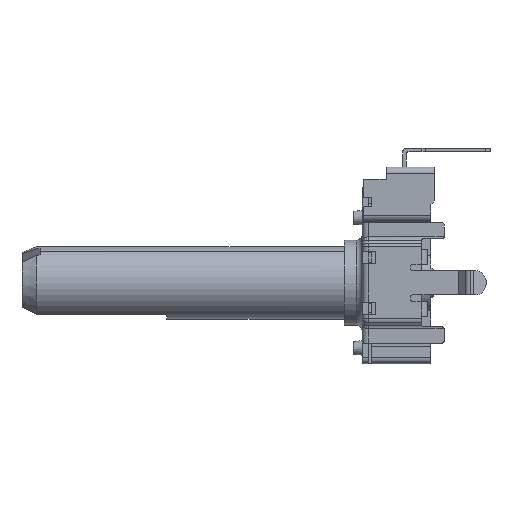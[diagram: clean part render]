
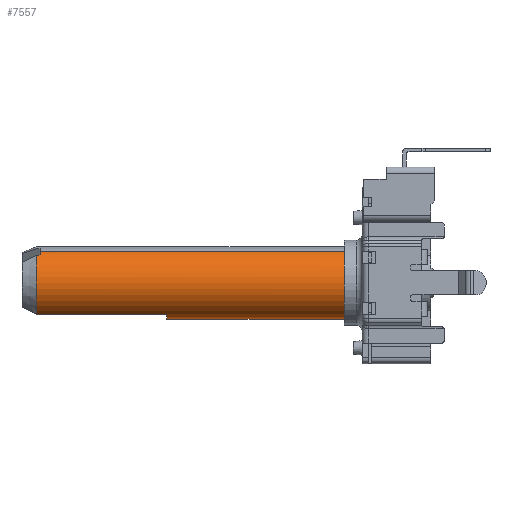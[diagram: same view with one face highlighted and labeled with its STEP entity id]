
A CAD part, left-side view. The second image highlights one B-rep face of the part: STEP entity #7557.
In plain terms, the highlighted cylindrical face has radius 3 mm (diameter 6 mm), a partial arc.
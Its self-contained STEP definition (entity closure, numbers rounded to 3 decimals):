
#228 = VECTOR ( 'NONE', #5100, 1000. ) ;
#248 = CARTESIAN_POINT ( 'NONE',  ( 0., 2.5, 0. ) ) ;
#256 = VERTEX_POINT ( 'NONE', #2980 ) ;
#347 = CARTESIAN_POINT ( 'NONE',  ( 0., 30.1, -3. ) ) ;
#392 = CARTESIAN_POINT ( 'NONE',  ( 0.533, 30., -2.952 ) ) ;
#1196 = AXIS2_PLACEMENT_3D ( 'NONE', #11492, #17281, #7730 ) ;
#1240 = ORIENTED_EDGE ( 'NONE', *, *, #14468, .F. ) ;
#1394 = ORIENTED_EDGE ( 'NONE', *, *, #13270, .F. ) ;
#1442 = VERTEX_POINT ( 'NONE', #5279 ) ;
#1662 = ORIENTED_EDGE ( 'NONE', *, *, #14648, .T. ) ;
#1887 = CARTESIAN_POINT ( 'NONE',  ( 2.598, 19.3, 1.5 ) ) ;
#2222 = CARTESIAN_POINT ( 'NONE',  ( 2.598, 30.1, 1.5 ) ) ;
#2753 = CIRCLE ( 'NONE', #9995, 3. ) ;
#2883 = DIRECTION ( 'NONE',  ( 0., 1., 0. ) ) ;
#2980 = CARTESIAN_POINT ( 'NONE',  ( 0., 2.5, 3. ) ) ;
#3154 = CARTESIAN_POINT ( 'NONE',  ( 0., 2.5, -3. ) ) ;
#3231 = EDGE_CURVE ( 'NONE', #1442, #14192, #5942, .T. ) ;
#4358 = AXIS2_PLACEMENT_3D ( 'NONE', #248, #2883, #16203 ) ;
#4435 = CARTESIAN_POINT ( 'NONE',  ( 0.5, 29.8, -2.958 ) ) ;
#4491 = CARTESIAN_POINT ( 'NONE',  ( 0.55, 30.1, -2.949 ) ) ;
#4579 = VERTEX_POINT ( 'NONE', #2222 ) ;
#4677 = EDGE_CURVE ( 'NONE', #7199, #12082, #9307, .T. ) ;
#4878 = CARTESIAN_POINT ( 'NONE',  ( 0., 29.8, 0. ) ) ;
#5100 = DIRECTION ( 'NONE',  ( 0., -1., 0. ) ) ;
#5270 = EDGE_LOOP ( 'NONE', ( #12167, #1662, #14281, #10871, #11147, #1394, #1240, #16347 ) ) ;
#5279 = CARTESIAN_POINT ( 'NONE',  ( 0., 29.8, -3. ) ) ;
#5942 = LINE ( 'NONE', #347, #6093 ) ;
#6093 = VECTOR ( 'NONE', #11279, 1000. ) ;
#6310 = CYLINDRICAL_SURFACE ( 'NONE', #12482, 3. ) ;
#7064 = EDGE_CURVE ( 'NONE', #256, #14192, #8814, .T. ) ;
#7199 = VERTEX_POINT ( 'NONE', #12590 ) ;
#7557 = ADVANCED_FACE ( 'NONE', ( #15970 ), #6310, .T. ) ;
#7730 = DIRECTION ( 'NONE',  ( 0., 0., 1. ) ) ;
#8294 = AXIS2_PLACEMENT_3D ( 'NONE', #4878, #11452, #14268 ) ;
#8469 = LINE ( 'NONE', #13739, #13894 ) ;
#8814 = CIRCLE ( 'NONE', #4358, 3. ) ;
#9135 = EDGE_CURVE ( 'NONE', #12082, #4579, #8469, .T. ) ;
#9307 = CIRCLE ( 'NONE', #1196, 3. ) ;
#9678 = CARTESIAN_POINT ( 'NONE',  ( 0.55, 30.1, -2.949 ) ) ;
#9995 = AXIS2_PLACEMENT_3D ( 'NONE', #14713, #12485, #10994 ) ;
#10349 = CARTESIAN_POINT ( 'NONE',  ( 0., 30.1, 3. ) ) ;
#10525 = LINE ( 'NONE', #10349, #228 ) ;
#10871 = ORIENTED_EDGE ( 'NONE', *, *, #3231, .F. ) ;
#10994 = DIRECTION ( 'NONE',  ( 0., 0., 1. ) ) ;
#11147 = ORIENTED_EDGE ( 'NONE', *, *, #11267, .F. ) ;
#11267 = EDGE_CURVE ( 'NONE', #11383, #1442, #12202, .T. ) ;
#11279 = DIRECTION ( 'NONE',  ( 0., -1., 0. ) ) ;
#11383 = VERTEX_POINT ( 'NONE', #13392 ) ;
#11452 = DIRECTION ( 'NONE',  ( 0., 1., 0. ) ) ;
#11492 = CARTESIAN_POINT ( 'NONE',  ( 0., 19.3, 0. ) ) ;
#12052 =( BOUNDED_CURVE ( )  B_SPLINE_CURVE ( 3, ( #9678, #392, #16426, #4435 ),
 .UNSPECIFIED., .F., .F. ) 
 B_SPLINE_CURVE_WITH_KNOTS ( ( 4, 4 ),
 ( 4.528, 4.545 ),
 .UNSPECIFIED. ) 
 CURVE ( )  GEOMETRIC_REPRESENTATION_ITEM ( )  RATIONAL_B_SPLINE_CURVE ( ( 1., 1., 1., 1. ) ) 
 REPRESENTATION_ITEM ( '' )  );
#12082 = VERTEX_POINT ( 'NONE', #1887 ) ;
#12167 = ORIENTED_EDGE ( 'NONE', *, *, #4677, .F. ) ;
#12202 = CIRCLE ( 'NONE', #8294, 3. ) ;
#12482 = AXIS2_PLACEMENT_3D ( 'NONE', #13060, #13337, #14475 ) ;
#12485 = DIRECTION ( 'NONE',  ( 0., 1., 0. ) ) ;
#12590 = CARTESIAN_POINT ( 'NONE',  ( 0., 19.3, 3. ) ) ;
#13060 = CARTESIAN_POINT ( 'NONE',  ( 0., 30.1, 0. ) ) ;
#13270 = EDGE_CURVE ( 'NONE', #17125, #11383, #12052, .T. ) ;
#13337 = DIRECTION ( 'NONE',  ( 0., -1., 0. ) ) ;
#13392 = CARTESIAN_POINT ( 'NONE',  ( 0.5, 29.8, -2.958 ) ) ;
#13739 = CARTESIAN_POINT ( 'NONE',  ( 2.598, 19.3, 1.5 ) ) ;
#13820 = DIRECTION ( 'NONE',  ( 0., 1., 0. ) ) ;
#13894 = VECTOR ( 'NONE', #13820, 1000. ) ;
#14192 = VERTEX_POINT ( 'NONE', #3154 ) ;
#14268 = DIRECTION ( 'NONE',  ( 0., 0., -1. ) ) ;
#14281 = ORIENTED_EDGE ( 'NONE', *, *, #7064, .T. ) ;
#14468 = EDGE_CURVE ( 'NONE', #4579, #17125, #2753, .T. ) ;
#14475 = DIRECTION ( 'NONE',  ( 0., 0., -1. ) ) ;
#14648 = EDGE_CURVE ( 'NONE', #7199, #256, #10525, .T. ) ;
#14713 = CARTESIAN_POINT ( 'NONE',  ( 0., 30.1, 0. ) ) ;
#15970 = FACE_OUTER_BOUND ( 'NONE', #5270, .T. ) ;
#16203 = DIRECTION ( 'NONE',  ( 0., 0., 1. ) ) ;
#16347 = ORIENTED_EDGE ( 'NONE', *, *, #9135, .F. ) ;
#16426 = CARTESIAN_POINT ( 'NONE',  ( 0.517, 29.9, -2.955 ) ) ;
#17125 = VERTEX_POINT ( 'NONE', #4491 ) ;
#17281 = DIRECTION ( 'NONE',  ( 0., 1., 0. ) ) ;
